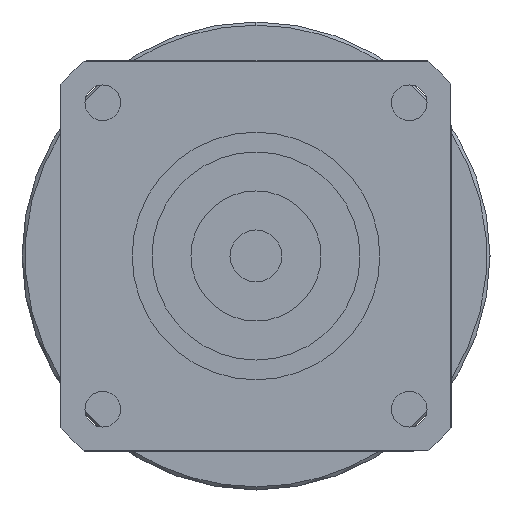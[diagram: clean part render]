
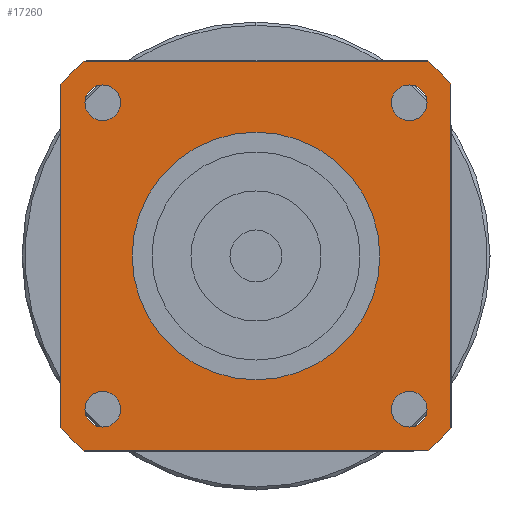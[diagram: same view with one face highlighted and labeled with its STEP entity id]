
A CAD part, left-side view. The second image highlights one B-rep face of the part: STEP entity #17260.
In plain terms, the highlighted planar face has unit normal (-1, 0, 0) as drawn and (0, 0, -1) by its records, which use the part's own axes.
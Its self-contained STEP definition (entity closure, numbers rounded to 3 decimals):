
#12210=CARTESIAN_POINT('',(26.458,30.,-91.));
#12220=VERTEX_POINT('',#12210);
#12250=CARTESIAN_POINT('',(0.,0.,
-91.));
#12260=DIRECTION('',(0.,0.,1.));
#12270=DIRECTION('',(0.,-1.,0.));
#12280=AXIS2_PLACEMENT_3D('',#12250,#12260,#12270);
#12290=CIRCLE('',#12280,40.);
#12300=CARTESIAN_POINT('',(30.,26.458,-91.));
#12310=VERTEX_POINT('',#12300);
#12320=EDGE_CURVE('',#12310,#12220,#12290,.T.);
#12630=CARTESIAN_POINT('',(-26.458,-30.,-91.));
#12640=VERTEX_POINT('',#12630);
#12870=CARTESIAN_POINT('',(26.458,-30.,-91.));
#12880=VERTEX_POINT('',#12870);
#12910=CARTESIAN_POINT('',(-30.,-30.,-91.));
#12920=DIRECTION('',(1.,0.,0.));
#12930=VECTOR('',#12920,1000.);
#12940=LINE('',#12910,#12930);
#12950=EDGE_CURVE('',#12640,#12880,#12940,.T.);
#15380=CARTESIAN_POINT('',(30.,-26.458,-91.));
#15390=VERTEX_POINT('',#15380);
#15420=CARTESIAN_POINT('',(0.,0.,
-91.));
#15430=DIRECTION('',(0.,0.,1.));
#15440=DIRECTION('',(0.,-1.,0.));
#15450=AXIS2_PLACEMENT_3D('',#15420,#15430,#15440);
#15460=CIRCLE('',#15450,40.);
#15470=EDGE_CURVE('',#12880,#15390,#15460,.T.);
#15610=CARTESIAN_POINT('',(20.821,23.571,-91.));
#15620=VERTEX_POINT('',#15610);
#15780=CARTESIAN_POINT('',(26.321,23.571,-91.));
#15790=VERTEX_POINT('',#15780);
#15820=CARTESIAN_POINT('',(23.571,23.571,-91.));
#15830=DIRECTION('',(0.,0.,-1.));
#15840=DIRECTION('',(0.,1.,0.));
#15850=AXIS2_PLACEMENT_3D('',#15820,#15830,#15840);
#15860=CIRCLE('',#15850,2.75);
#15870=CARTESIAN_POINT('',(23.571,26.321,-91.));
#15880=VERTEX_POINT('',#15870);
#15890=EDGE_CURVE('',#15880,#15790,#15860,.T.);
#15910=EDGE_CURVE('',#15620,#15880,#15860,.T.);
#15960=CARTESIAN_POINT('',(-30.,30.,-91.));
#15970=DIRECTION('',(0.,0.,1.));
#15980=DIRECTION('',(-1.,0.,0.));
#15990=AXIS2_PLACEMENT_3D('',#15960,#15970,#15980);
#16000=PLANE('',#15990);
#16010=CARTESIAN_POINT('',(23.571,-23.571,-91.));
#16020=DIRECTION('',(0.,0.,-1.));
#16030=DIRECTION('',(1.,0.,0.));
#16040=AXIS2_PLACEMENT_3D('',#16010,#16020,#16030);
#16050=CIRCLE('',#16040,2.75);
#16060=CARTESIAN_POINT('',(26.321,-23.571,-91.));
#16070=VERTEX_POINT('',#16060);
#16080=CARTESIAN_POINT('',(23.571,-26.321,-91.));
#16090=VERTEX_POINT('',#16080);
#16100=EDGE_CURVE('',#16070,#16090,#16050,.T.);
#16110=ORIENTED_EDGE('',*,*,#16100,.F.);
#16120=CARTESIAN_POINT('',(23.571,-20.821,-91.));
#16130=VERTEX_POINT('',#16120);
#16140=EDGE_CURVE('',#16090,#16130,#16050,.T.);
#16150=ORIENTED_EDGE('',*,*,#16140,.F.);
#16160=EDGE_CURVE('',#16130,#16070,#16050,.T.);
#16170=ORIENTED_EDGE('',*,*,#16160,.F.);
#16180=EDGE_LOOP('',(#16170,#16150,#16110));
#16190=FACE_BOUND('',#16180,.T.);
#16200=ORIENTED_EDGE('',*,*,#15890,.F.);
#16210=EDGE_CURVE('',#15790,#15620,#15860,.T.);
#16220=ORIENTED_EDGE('',*,*,#16210,.F.);
#16230=ORIENTED_EDGE('',*,*,#15910,.F.);
#16240=EDGE_LOOP('',(#16230,#16220,#16200));
#16250=FACE_BOUND('',#16240,.T.);
#16260=CARTESIAN_POINT('',(-23.571,23.571,-91.));
#16270=DIRECTION('',(0.,0.,-1.));
#16280=DIRECTION('',(-1.,0.,0.));
#16290=AXIS2_PLACEMENT_3D('',#16260,#16270,#16280);
#16300=CIRCLE('',#16290,2.75);
#16310=CARTESIAN_POINT('',(-26.321,23.571,-91.));
#16320=VERTEX_POINT('',#16310);
#16330=CARTESIAN_POINT('',(-23.571,26.321,-91.));
#16340=VERTEX_POINT('',#16330);
#16350=EDGE_CURVE('',#16320,#16340,#16300,.T.);
#16360=ORIENTED_EDGE('',*,*,#16350,.F.);
#16370=CARTESIAN_POINT('',(-23.571,20.821,-91.));
#16380=VERTEX_POINT('',#16370);
#16390=EDGE_CURVE('',#16340,#16380,#16300,.T.);
#16400=ORIENTED_EDGE('',*,*,#16390,.F.);
#16410=EDGE_CURVE('',#16380,#16320,#16300,.T.);
#16420=ORIENTED_EDGE('',*,*,#16410,.F.);
#16430=EDGE_LOOP('',(#16420,#16400,#16360));
#16440=FACE_BOUND('',#16430,.T.);
#16450=CARTESIAN_POINT('',(-23.571,-23.571,-91.));
#16460=DIRECTION('',(0.,0.,-1.));
#16470=DIRECTION('',(0.,-1.,0.));
#16480=AXIS2_PLACEMENT_3D('',#16450,#16460,#16470);
#16490=CIRCLE('',#16480,2.75);
#16500=CARTESIAN_POINT('',(-23.571,-26.321,-91.));
#16510=VERTEX_POINT('',#16500);
#16520=CARTESIAN_POINT('',(-26.321,-23.571,-91.));
#16530=VERTEX_POINT('',#16520);
#16540=EDGE_CURVE('',#16510,#16530,#16490,.T.);
#16550=ORIENTED_EDGE('',*,*,#16540,.F.);
#16560=CARTESIAN_POINT('',(-20.821,-23.571,-91.));
#16570=VERTEX_POINT('',#16560);
#16580=EDGE_CURVE('',#16530,#16570,#16490,.T.);
#16590=ORIENTED_EDGE('',*,*,#16580,.F.);
#16600=EDGE_CURVE('',#16570,#16510,#16490,.T.);
#16610=ORIENTED_EDGE('',*,*,#16600,.F.);
#16620=EDGE_LOOP('',(#16610,#16590,#16550));
#16630=FACE_BOUND('',#16620,.T.);
#16640=CARTESIAN_POINT('',(0.,0.,
-91.));
#16650=DIRECTION('',(0.,0.,1.));
#16660=DIRECTION('',(0.,-1.,0.));
#16670=AXIS2_PLACEMENT_3D('',#16640,#16650,#16660);
#16680=CIRCLE('',#16670,40.);
#16690=CARTESIAN_POINT('',(-30.,-26.458,-91.));
#16700=VERTEX_POINT('',#16690);
#16710=EDGE_CURVE('',#16700,#12640,#16680,.T.);
#16720=ORIENTED_EDGE('',*,*,#16710,.F.);
#16730=ORIENTED_EDGE('',*,*,#12950,.F.);
#16740=ORIENTED_EDGE('',*,*,#15470,.F.);
#16750=CARTESIAN_POINT('',(30.,-30.,-91.));
#16760=DIRECTION('',(0.,1.,0.));
#16770=VECTOR('',#16760,1000.);
#16780=LINE('',#16750,#16770);
#16790=EDGE_CURVE('',#15390,#12310,#16780,.T.);
#16800=ORIENTED_EDGE('',*,*,#16790,.F.);
#16810=ORIENTED_EDGE('',*,*,#12320,.F.);
#16820=CARTESIAN_POINT('',(30.,30.,-91.));
#16830=DIRECTION('',(-1.,0.,0.));
#16840=VECTOR('',#16830,1000.);
#16850=LINE('',#16820,#16840);
#16860=CARTESIAN_POINT('',(-26.458,30.,-91.));
#16870=VERTEX_POINT('',#16860);
#16880=EDGE_CURVE('',#12220,#16870,#16850,.T.);
#16890=ORIENTED_EDGE('',*,*,#16880,.F.);
#16900=CARTESIAN_POINT('',(0.,0.,
-91.));
#16910=DIRECTION('',(0.,0.,1.));
#16920=DIRECTION('',(0.,-1.,0.));
#16930=AXIS2_PLACEMENT_3D('',#16900,#16910,#16920);
#16940=CIRCLE('',#16930,40.);
#16950=CARTESIAN_POINT('',(-30.,26.458,-91.));
#16960=VERTEX_POINT('',#16950);
#16970=EDGE_CURVE('',#16870,#16960,#16940,.T.);
#16980=ORIENTED_EDGE('',*,*,#16970,.F.);
#16990=CARTESIAN_POINT('',(-30.,30.,-91.));
#17000=DIRECTION('',(0.,-1.,0.));
#17010=VECTOR('',#17000,1000.);
#17020=LINE('',#16990,#17010);
#17030=EDGE_CURVE('',#16960,#16700,#17020,.T.);
#17040=ORIENTED_EDGE('',*,*,#17030,.F.);
#17050=EDGE_LOOP('',(#17040,#16980,#16890,#16810,#16800,#16740,#16730,
#16720));
#17060=FACE_OUTER_BOUND('',#17050,.T.);
#17070=CARTESIAN_POINT('',(0.,0.,
-91.));
#17080=DIRECTION('',(0.,0.,1.));
#17090=DIRECTION('',(0.,-1.,0.));
#17100=AXIS2_PLACEMENT_3D('',#17070,#17080,#17090);
#17110=CIRCLE('',#17100,19.05);
#17120=CARTESIAN_POINT('',(19.05,0.,-91.));
#17130=VERTEX_POINT('',#17120);
#17140=CARTESIAN_POINT('',(-19.05,0.,-91.));
#17150=VERTEX_POINT('',#17140);
#17160=EDGE_CURVE('',#17130,#17150,#17110,.T.);
#17170=ORIENTED_EDGE('',*,*,#17160,.T.);
#17180=CARTESIAN_POINT('',(0.,-19.05,-91.));
#17190=VERTEX_POINT('',#17180);
#17200=EDGE_CURVE('',#17190,#17130,#17110,.T.);
#17210=ORIENTED_EDGE('',*,*,#17200,.T.);
#17220=EDGE_CURVE('',#17150,#17190,#17110,.T.);
#17230=ORIENTED_EDGE('',*,*,#17220,.T.);
#17240=EDGE_LOOP('',(#17230,#17210,#17170));
#17250=FACE_BOUND('',#17240,.T.);
#17260=ADVANCED_FACE('',(#16190,#16250,#16440,#16630,#17060,#17250),
#16000,.F.);
